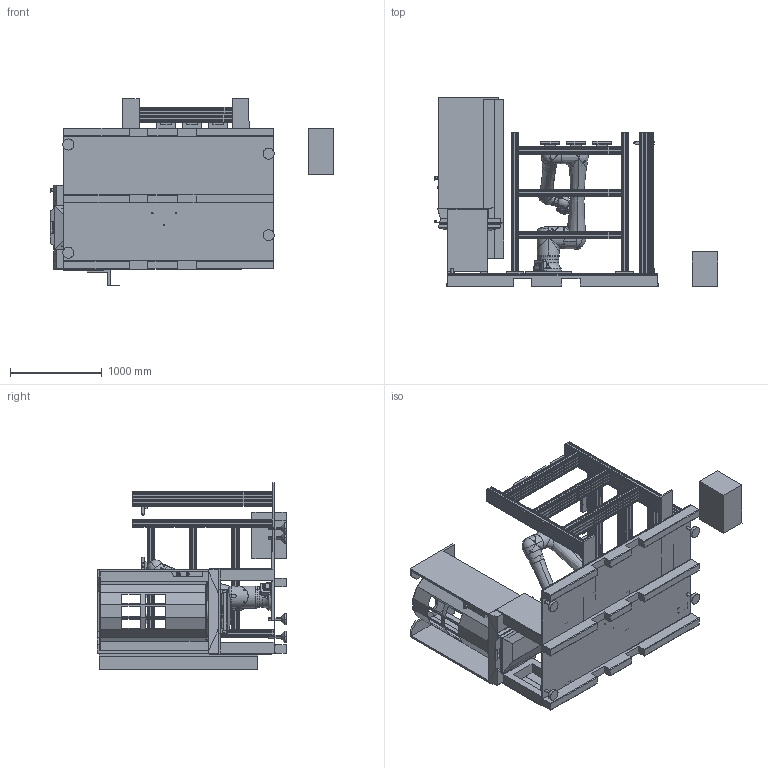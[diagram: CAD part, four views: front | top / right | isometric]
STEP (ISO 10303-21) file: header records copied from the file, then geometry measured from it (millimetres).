
FILE_DESCRIPTION (( 'STEP AP203' ), '1' );
FILE_NAME ('Fanuc 30kg w RPL_10_2025.STEP', '2025-10-02T16:58:48', ( '' ), ( '' ), 'SwSTEP 2.0', 'SolidWorks 2023', '' );
FILE_SCHEMA (( 'CONFIG_CONTROL_DESIGN' ));
Products named in the file (9): Fanuc 30k Cobot w RPL- Cobot 30kg; Fanuc 30k Cobot w RPL- Zero Point Chuck; Fanuc 30k Cobot w RPL- Operator Loading Station; Fanuc 30k Cobot w RPL- Pallet; Fanuc 30k Cobot w RPL- Zero Point Pallets; Fanuc 30k Cobot w RPL- Control box; Fanuc 30kg w RPL_10_2025; Fanuc 30k Cobot w RPL- Pallet Shelves; Fanuc 30k Cobot w RPL- Leveling Pads
Assembly tree (8 placements, depth 2):
  Fanuc 30kg w RPL_10_2025
    Fanuc 30k Cobot w RPL- Leveling Pads
    Fanuc 30k Cobot w RPL- Pallet
    Fanuc 30k Cobot w RPL- Pallet Shelves
    Fanuc 30k Cobot w RPL- Zero Point Pallets
    Fanuc 30k Cobot w RPL- Control box
    Fanuc 30k Cobot w RPL- Cobot 30kg
    Fanuc 30k Cobot w RPL- Operator Loading Station
    Fanuc 30k Cobot w RPL- Zero Point Chuck
Bounding box: 3094.63 x 2067.62 x 2037.92 mm (x, y, z)
Volume: 574444047.8 mm3; surface area: 40143032.6 mm2
Topology: 28 solids, 72 shells, 6287 faces, 16328 edges, 10440 vertices
Faces by surface type: plane 4076, cylinder 1125, bspline 504, cone 496, torus 74, sphere 12
Entity records: 255879 total; most frequent: CARTESIAN_POINT 103849, ORIENTED_EDGE 32376, DIRECTION 29131, EDGE_CURVE 16188, LINE 11645, VECTOR 11645, VERTEX_POINT 10434, AXIS2_PLACEMENT_3D 8743
